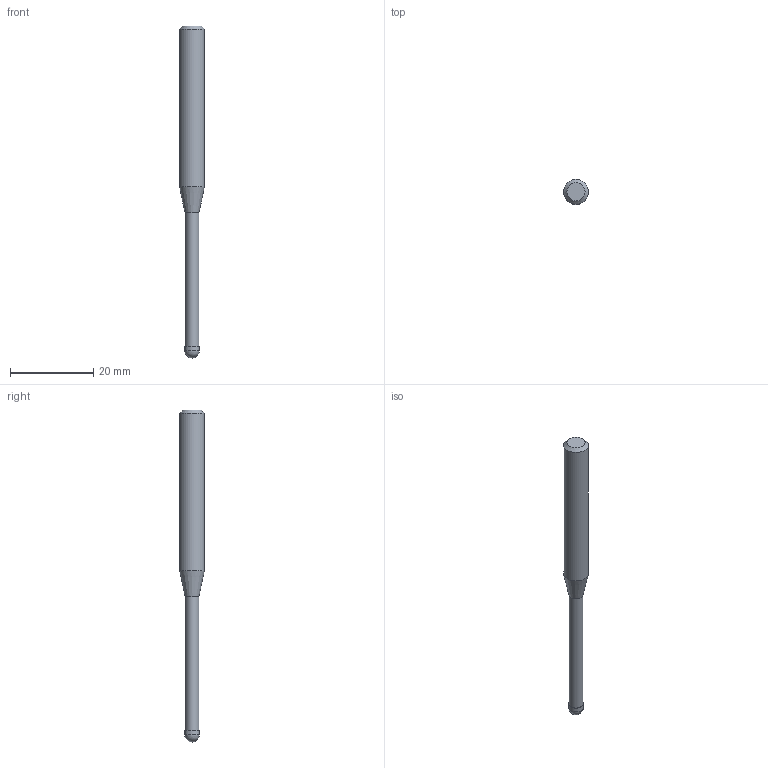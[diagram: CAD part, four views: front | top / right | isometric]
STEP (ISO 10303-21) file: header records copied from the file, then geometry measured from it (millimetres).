
FILE_DESCRIPTION((''),'2;1');
FILE_NAME('C:\Users\nsx150\AppData\Local\Temp\Mastercam 2021\3SYKECWX22\TEMP.step','2021-04-22T10:05:14',(''),(''),'STEP Write','Mastercam 2021 ... CNC Software, Inc.','');
FILE_SCHEMA(('AUTOMOTIVE_DESIGN'));
Length unit declared in the file: millimetre
Products named in the file (1): None
Bounding box: 6 x 6 x 80 mm (x, y, z)
Volume: 1505.6 mm3; surface area: 1231 mm2
Topology: 2 solids, 2 shells, 9 faces, 14 edges, 8 vertices
Faces by surface type: plane 3, cylinder 3, cone 2, sphere 1
Full cylindrical faces by diameter (mm): 3.35 x1, 3.5 x1, 6 x1
Entity records: 211 total; most frequent: DIRECTION 36, CARTESIAN_POINT 25, AXIS2_PLACEMENT_3D 18, ORIENTED_EDGE 14, EDGE_LOOP 14, STYLED_ITEM 12, ADVANCED_FACE 9, FACE_BOUND 8
